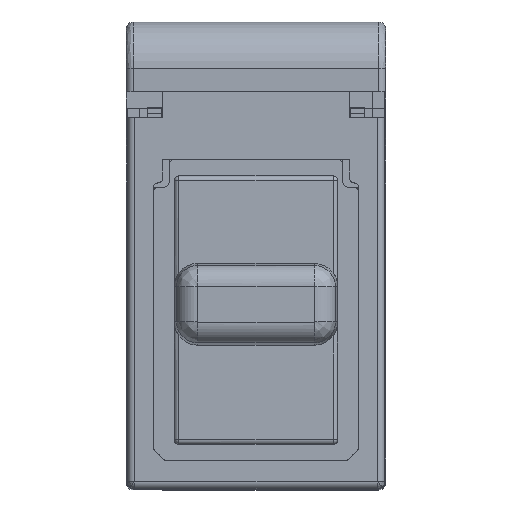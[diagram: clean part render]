
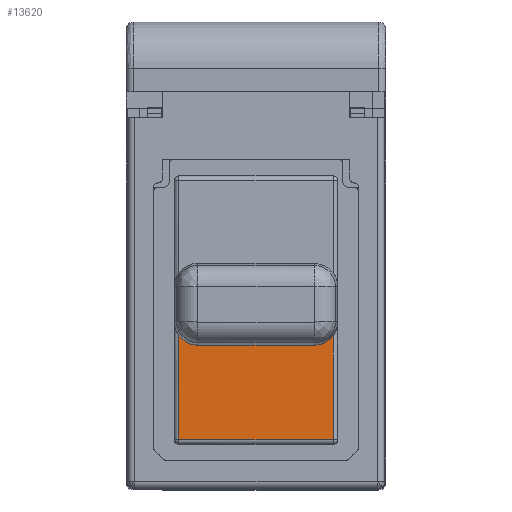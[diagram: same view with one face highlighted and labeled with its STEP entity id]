
A CAD part, top view. The second image highlights one B-rep face of the part: STEP entity #13620.
In plain terms, the highlighted planar face has unit normal (0, 0, 1).
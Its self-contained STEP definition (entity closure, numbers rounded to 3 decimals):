
#711 = CARTESIAN_POINT ( 'NONE',  ( -2.542, 1.75, 15.75 ) ) ;
#1242 = VERTEX_POINT ( 'NONE', #10726 ) ;
#1455 = EDGE_CURVE ( 'NONE', #25321, #1242, #58398, .T. ) ;
#2018 = VECTOR ( 'NONE', #19490, 1000. ) ;
#4509 = CARTESIAN_POINT ( 'NONE',  ( -1.854, 5.809, 15.75 ) ) ;
#4885 = CARTESIAN_POINT ( 'NONE',  ( -2.5, 1.75, 15.75 ) ) ;
#5072 = CARTESIAN_POINT ( 'NONE',  ( 4.1, 6.2, 15.75 ) ) ;
#5123 = CARTESIAN_POINT ( 'NONE',  ( -2.077, 5.871, 15.75 ) ) ;
#5422 = CARTESIAN_POINT ( 'NONE',  ( -2.5, 6.2, 15.75 ) ) ;
#6150 = VERTEX_POINT ( 'NONE', #38404 ) ;
#6154 = CARTESIAN_POINT ( 'NONE',  ( 4.1, 1.75, 15.75 ) ) ;
#8403 = CARTESIAN_POINT ( 'NONE',  ( 4.1, 6.2, 15.75 ) ) ;
#8444 = CARTESIAN_POINT ( 'NONE',  ( 4.55, 14.55, 15.75 ) ) ;
#9776 = CARTESIAN_POINT ( 'NONE',  ( 3.3, 5.8, 15.75 ) ) ;
#10358 = CARTESIAN_POINT ( 'NONE',  ( -2.287, 5.974, 15.75 ) ) ;
#10726 = CARTESIAN_POINT ( 'NONE',  ( -2.5, 6.2, 15.75 ) ) ;
#12418 = EDGE_CURVE ( 'NONE', #26004, #6150, #43874, .T. ) ;
#12897 = DIRECTION ( 'NONE',  ( -1., 0., 0. ) ) ;
#13400 = CARTESIAN_POINT ( 'NONE',  ( 3.459, 5.8, 15.75 ) ) ;
#13620 = ADVANCED_FACE ( 'NONE', ( #20576 ), #58191, .T. ) ;
#17028 = B_SPLINE_CURVE_WITH_KNOTS ( 'NONE', 3,
 ( #29219, #20889, #48331, #48628 ),
 .UNSPECIFIED., .F., .F.,
 ( 4, 4 ),
 ( 0., 1. ),
 .UNSPECIFIED. ) ;
#17978 = EDGE_CURVE ( 'NONE', #46570, #1242, #17028, .T. ) ;
#18014 = CARTESIAN_POINT ( 'NONE',  ( 4.053, 6.138, 15.75 ) ) ;
#19110 = B_SPLINE_CURVE_WITH_KNOTS ( 'NONE', 3,
 ( #5072, #18014, #36812, #23861, #42657, #50997, #13400, #27563 ),
 .UNSPECIFIED., .F., .F.,
 ( 4, 2, 2, 4 ),
 ( 0., 0.25, 0.5, 1. ),
 .UNSPECIFIED. ) ;
#19490 = DIRECTION ( 'NONE',  ( -1., 0., 0. ) ) ;
#19690 = EDGE_CURVE ( 'NONE', #26004, #40914, #19110, .T. ) ;
#20576 = FACE_OUTER_BOUND ( 'NONE', #28683, .T. ) ;
#20889 = CARTESIAN_POINT ( 'NONE',  ( -2.5, 3.233, 15.75 ) ) ;
#23040 = EDGE_CURVE ( 'NONE', #6150, #46570, #24106, .T. ) ;
#23861 = CARTESIAN_POINT ( 'NONE',  ( 3.883, 5.984, 15.75 ) ) ;
#24106 = LINE ( 'NONE', #711, #2018 ) ;
#25321 = VERTEX_POINT ( 'NONE', #51705 ) ;
#26004 = VERTEX_POINT ( 'NONE', #8403 ) ;
#27563 = CARTESIAN_POINT ( 'NONE',  ( 3.3, 5.8, 15.75 ) ) ;
#28683 = EDGE_LOOP ( 'NONE', ( #45519, #59233, #45717, #55416, #56362, #34226 ) ) ;
#29071 = AXIS2_PLACEMENT_3D ( 'NONE', #8444, #43680, #39985 ) ;
#29142 = CARTESIAN_POINT ( 'NONE',  ( -1.7, 5.8, 15.75 ) ) ;
#29219 = CARTESIAN_POINT ( 'NONE',  ( -2.5, 1.75, 15.75 ) ) ;
#29579 = CARTESIAN_POINT ( 'NONE',  ( 4.1, 4.717, 15.75 ) ) ;
#32286 = VECTOR ( 'NONE', #12897, 1000. ) ;
#34226 = ORIENTED_EDGE ( 'NONE', *, *, #17978, .F. ) ;
#35383 = EDGE_CURVE ( 'NONE', #40914, #25321, #37221, .T. ) ;
#36812 = CARTESIAN_POINT ( 'NONE',  ( 4.001, 6.082, 15.75 ) ) ;
#37221 = LINE ( 'NONE', #55438, #32286 ) ;
#38404 = CARTESIAN_POINT ( 'NONE',  ( 4.1, 1.75, 15.75 ) ) ;
#39985 = DIRECTION ( 'NONE',  ( 1., 0., 0. ) ) ;
#40914 = VERTEX_POINT ( 'NONE', #9776 ) ;
#42657 = CARTESIAN_POINT ( 'NONE',  ( 3.817, 5.941, 15.75 ) ) ;
#43314 = CARTESIAN_POINT ( 'NONE',  ( -2.404, 6.073, 15.75 ) ) ;
#43680 = DIRECTION ( 'NONE',  ( 0., 0., 1. ) ) ;
#43874 = B_SPLINE_CURVE_WITH_KNOTS ( 'NONE', 3,
 ( #47779, #29579, #48381, #6154 ),
 .UNSPECIFIED., .F., .F.,
 ( 4, 4 ),
 ( 0., 1. ),
 .UNSPECIFIED. ) ;
#45519 = ORIENTED_EDGE ( 'NONE', *, *, #23040, .F. ) ;
#45717 = ORIENTED_EDGE ( 'NONE', *, *, #19690, .T. ) ;
#46570 = VERTEX_POINT ( 'NONE', #4885 ) ;
#47779 = CARTESIAN_POINT ( 'NONE',  ( 4.1, 6.2, 15.75 ) ) ;
#48331 = CARTESIAN_POINT ( 'NONE',  ( -2.5, 4.717, 15.75 ) ) ;
#48381 = CARTESIAN_POINT ( 'NONE',  ( 4.1, 3.233, 15.75 ) ) ;
#48628 = CARTESIAN_POINT ( 'NONE',  ( -2.5, 6.2, 15.75 ) ) ;
#50997 = CARTESIAN_POINT ( 'NONE',  ( 3.608, 5.835, 15.75 ) ) ;
#51705 = CARTESIAN_POINT ( 'NONE',  ( -1.7, 5.8, 15.75 ) ) ;
#52296 = CARTESIAN_POINT ( 'NONE',  ( -1.778, 5.8, 15.75 ) ) ;
#55416 = ORIENTED_EDGE ( 'NONE', *, *, #35383, .T. ) ;
#55438 = CARTESIAN_POINT ( 'NONE',  ( 4.55, 5.8, 15.75 ) ) ;
#56362 = ORIENTED_EDGE ( 'NONE', *, *, #1455, .T. ) ;
#57224 = CARTESIAN_POINT ( 'NONE',  ( -2.003, 5.844, 15.75 ) ) ;
#58191 = PLANE ( 'NONE',  #29071 ) ;
#58398 = B_SPLINE_CURVE_WITH_KNOTS ( 'NONE', 3,
 ( #29142, #52296, #4509, #57224, #5123, #10358, #43314, #5422 ),
 .UNSPECIFIED., .F., .F.,
 ( 4, 2, 2, 4 ),
 ( 0., 0.25, 0.5, 1. ),
 .UNSPECIFIED. ) ;
#59233 = ORIENTED_EDGE ( 'NONE', *, *, #12418, .F. ) ;
